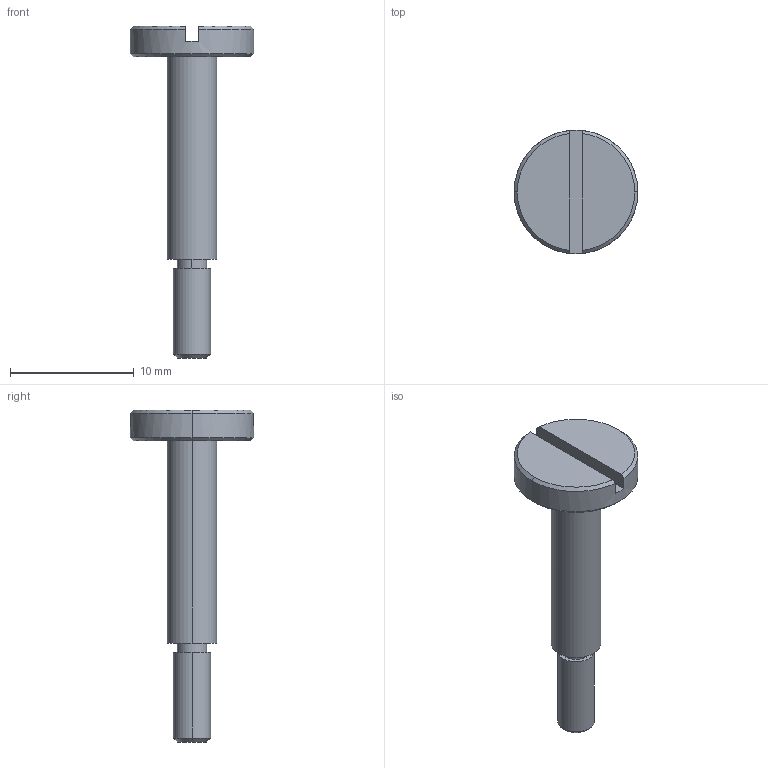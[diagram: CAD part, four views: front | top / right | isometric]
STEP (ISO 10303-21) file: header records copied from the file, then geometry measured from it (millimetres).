
FILE_DESCRIPTION((''),'2;1');
FILE_NAME('2503641a.stp','2001-10-26T14:46:16',(''),(''),'AutoCAD STEP 2000i','AutoCAD 2000i',', , ');
FILE_SCHEMA(('CONFIG_CONTROL_DESIGN'));
Length unit declared in the file: millimetre
Products named in the file (2): 2503641AA; 2503641A
Assembly tree (1 placements, depth 2):
  2503641AA
    2503641A
Bounding box: 10 x 10 x 26.83 mm (x, y, z)
Volume: 441.4 mm3; surface area: 531.4 mm2
Topology: 1 solids, 1 shells, 25 faces, 55 edges, 35 vertices
Faces by surface type: plane 9, cylinder 8, cone 8
Entity records: 803 total; most frequent: DIRECTION 134, CARTESIAN_POINT 125, ORIENTED_EDGE 110, AXIS2_PLACEMENT_3D 56, EDGE_CURVE 55, VERTEX_POINT 35, CIRCLE 29, EDGE_LOOP 28
